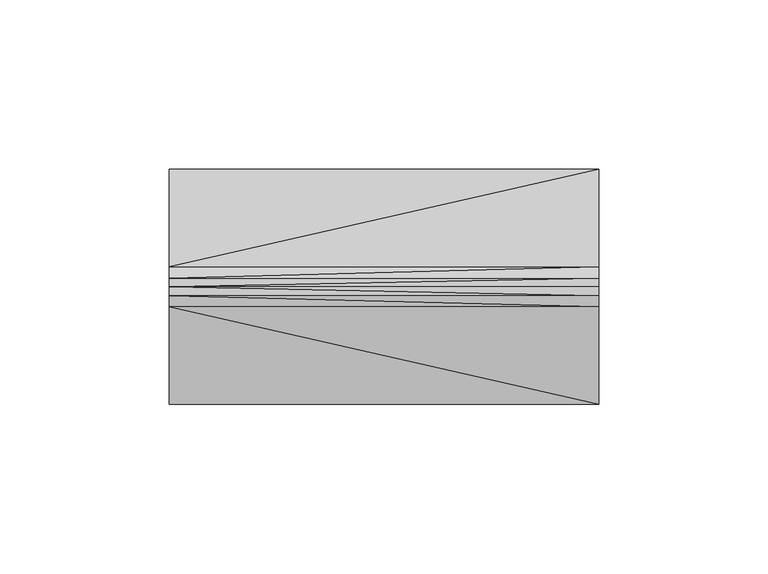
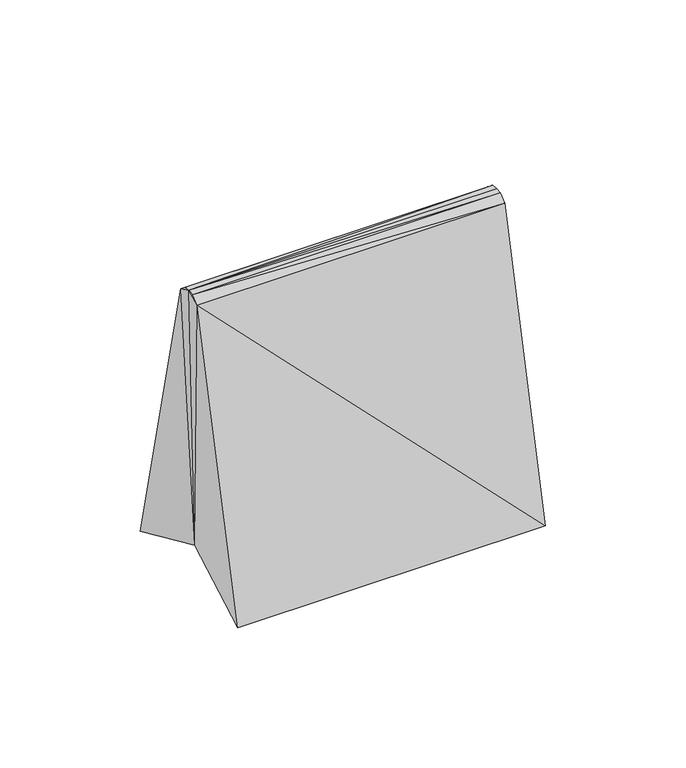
"""IFC4 building model written with IfcOpenShell, lengths in millimetres: geographic element geometry, Enscape AssetDefinition - Calendar 1 : Enscape AssetDefinition - Calendar 1."""

from ifc_helpers import new_model, si_unit, origin, place, context, project, spatial, faceted_brep, source, transform, mapped, element, save


def geographic_element_4468c854(model_context):
    return source(origin(), model_context, "Body", "Brep", [
        faceted_brep([(-63.3355379, -34.6622728, 0.2862766), (60.9895922, 0.0, 14.3733677), (63.3355379, -34.6622728, 0.2862766), (-60.9895922, 0.0, 14.3733677), (-63.3355379, 34.6622728, 0.2862766), (63.3355379, 34.6622728, 0.2862766), (63.3355379, -5.9345397, 123.278819), (63.3355379, 5.9345397, 123.278819), (63.3355379, 0.0, 126.0288507), (-63.3355379, -5.9345397, 123.278819), (-63.3355379, -2.605624, 125.8337796), (-63.3355379, 0.0, 126.0288507), (63.3355379, -2.605624, 125.8337796), (63.3355379, 2.605624, 125.8337796), (-63.3355379, 5.9345397, 123.278819), (-63.3355379, 2.605624, 125.8337796)], [[[0, 1, 2]], [[1, 0, 3]], [[4, 1, 3]], [[1, 4, 5]], [[2, 1, 6]], [[7, 8, 1]], [[8, 6, 1]], [[7, 1, 5]], [[9, 2, 6]], [[2, 9, 0]], [[0, 9, 3]], [[6, 10, 9]], [[11, 9, 10]], [[9, 11, 3]], [[10, 6, 12]], [[6, 8, 12]], [[11, 12, 8]], [[13, 11, 8]], [[8, 7, 13]], [[5, 14, 7]], [[7, 15, 13]], [[15, 7, 14]], [[11, 13, 15]], [[12, 11, 10]], [[14, 11, 15]], [[11, 14, 3]], [[14, 5, 4]], [[3, 14, 4]]]),
    ])


if __name__ == "__main__":
    model = new_model("IFC4")
    model_context = context("Model", 3, world=origin())
    ifc_project = project(units=[si_unit("LENGTHUNIT", "METRE", prefix="MILLI")], contexts=[model_context])
    site = spatial("IfcSite", under=ifc_project)
    building = spatial("IfcBuilding", under=site)
    placement = place(None, origin())
    geographic_element_shape = geographic_element_4468c854(model_context)
    element("IfcGeographicElement", 1, ObjectType="Enscape AssetDefinition - Calendar 1 : Enscape AssetDefinition - Calendar 1", at=placement, inside=building, context=model_context, shape_type="MappedRepresentation", body=[
        mapped(geographic_element_shape, transform((0.0, 0.0, 0.0), x_axis=(1.0, 0.0, 0.0), y_axis=(0.0, 1.0, 0.0), z_axis=(0.0, 0.0, 1.0))),
    ])
    save(model, "model.ifc")
